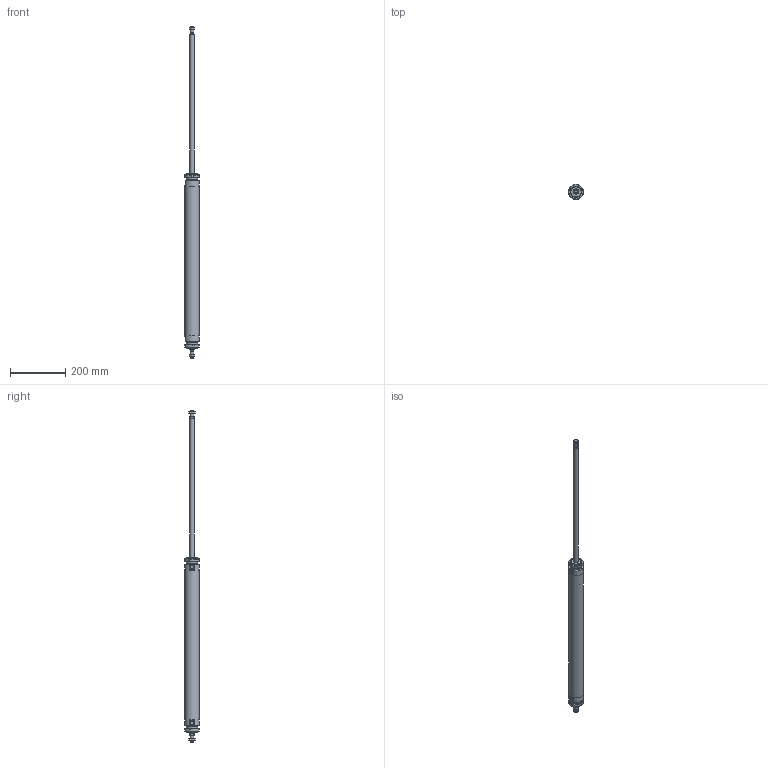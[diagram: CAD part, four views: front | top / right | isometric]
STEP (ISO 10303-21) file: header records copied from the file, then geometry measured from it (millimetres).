
FILE_DESCRIPTION(/* description */ (''),/* implementation_level */ '2;1');
FILE_NAME(/* name */ 'I:\Area Tecnica\Documenti\A-Manieri\_Inventor\12X\12X#S_###_####_#_#\12XCS_050_0500_#_#.stp',/* time_stamp */ '2015-05-08T14:17:18+02:00',/* author */ ('maniean1'),/* organization */ ('Pneumax S.p.A.'),/* preprocessor_version */ 'ST-DEVELOPER v15.2',/* originating_system */ 'Autodesk Inventor 2014',/* authorisation */ '');
FILE_SCHEMA (('AUTOMOTIVE_DESIGN { 1 0 10303 214 3 1 1 }'));
Length unit declared in the file: millimetre
Products named in the file (6): C1250_619-0500; 12X50_604; SP12X50_0500; 12X_50_11; G12X_050_05; 12XCS_050_0500_#_#
Bounding box: 54 x 54 x 1202 mm (x, y, z)
Volume: 642765.9 mm3; surface area: 282670.9 mm2
Topology: 8 solids, 8 shells, 133 faces, 303 edges, 194 vertices
Faces by surface type: plane 66, cone 34, cylinder 33
Full cylindrical faces by diameter (mm): 10.2 x2, 11.4 x2, 12 x4, 14 x2, 15.6 x2, 16 x2, 38.2 x2, 40 x6, 50 x2, 54 x3
Entity records: 2300 total; most frequent: CARTESIAN_POINT 435, DIRECTION 388, ORIENTED_EDGE 310, AXIS2_PLACEMENT_3D 166, EDGE_CURVE 155, EDGE_LOOP 130, VERTEX_POINT 117, ADVANCED_FACE 85
